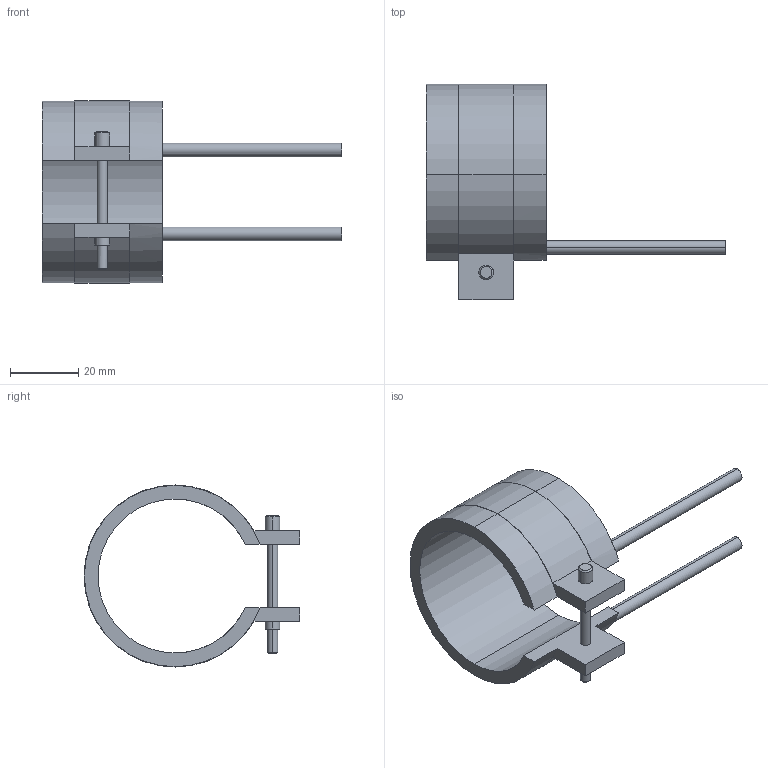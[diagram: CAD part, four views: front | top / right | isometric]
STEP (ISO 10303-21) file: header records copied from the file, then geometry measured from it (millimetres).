
FILE_DESCRIPTION(('CATIA V5 STEP Exchange'),'2;1');
FILE_NAME('C:\Users\Utente\Desktop\IO LAVORO\3D X SITO CF\X SITO\PLASTICA\RF2\14045035.stp','2021-03-31T11:59:06+00:00',('none'),('none'),'CATIA Version 5 Release 20 GA (IN-10)','CATIA V5 STEP AP203','none');
FILE_SCHEMA(('CONFIG_CONTROL_DESIGN'));
Length unit declared in the file: millimetre
Products named in the file (1): 14045035
Bounding box: 87.5 x 63.1 x 53.2 mm (x, y, z)
Volume: 22319.4 mm3; surface area: 13489.9 mm2
Topology: 1 solids, 1 shells, 45 faces, 116 edges, 76 vertices
Faces by surface type: cylinder 24, plane 17, cone 4
Entity records: 1406 total; most frequent: CARTESIAN_POINT 282, ORIENTED_EDGE 232, DIRECTION 195, EDGE_CURVE 116, AXIS2_PLACEMENT_3D 103, VERTEX_POINT 76, CIRCLE 61, VECTOR 52
